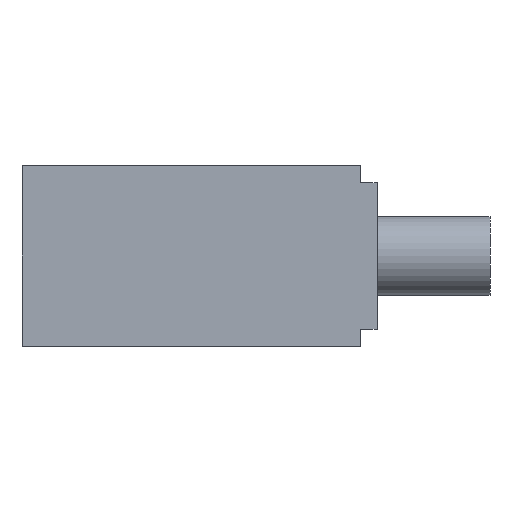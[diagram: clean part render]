
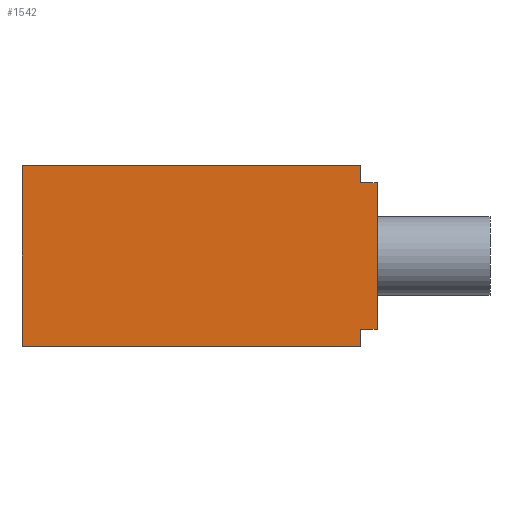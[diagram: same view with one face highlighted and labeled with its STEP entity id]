
A CAD part, front view. The second image highlights one B-rep face of the part: STEP entity #1542.
In plain terms, the highlighted planar face has unit normal (0, -1, 0) as drawn and (0, 0, -1) by its records, which use the part's own axes.
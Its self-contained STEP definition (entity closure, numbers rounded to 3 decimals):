
#48=LINE('',#2425,#150);
#52=LINE('',#2436,#154);
#60=LINE('',#2451,#162);
#92=LINE('',#2554,#194);
#108=LINE('',#2599,#210);
#124=LINE('',#2632,#226);
#127=LINE('',#2637,#229);
#128=LINE('',#2639,#230);
#150=VECTOR('',#1974,13.);
#154=VECTOR('',#1982,1.5);
#162=VECTOR('',#1990,1.5);
#194=VECTOR('',#2094,30.);
#210=VECTOR('',#2138,16.);
#226=VECTOR('',#2176,30.);
#229=VECTOR('',#2183,1.5);
#230=VECTOR('',#2186,1.5);
#340=PLANE('',#1724);
#484=FACE_OUTER_BOUND('',#614,.T.);
#614=EDGE_LOOP('',(#1408,#1409,#1410,#1411,#1412,#1413,#1414,#1415));
#769=VERTEX_POINT('',#2422);
#770=VERTEX_POINT('',#2424);
#772=VERTEX_POINT('',#2429);
#774=VERTEX_POINT('',#2433);
#775=VERTEX_POINT('',#2435);
#782=VERTEX_POINT('',#2449);
#817=VERTEX_POINT('',#2552);
#832=VERTEX_POINT('',#2597);
#927=EDGE_CURVE('',#770,#769,#48,.T.);
#932=EDGE_CURVE('',#775,#774,#52,.T.);
#940=EDGE_CURVE('',#772,#782,#60,.T.);
#989=EDGE_CURVE('',#782,#817,#92,.T.);
#1011=EDGE_CURVE('',#832,#817,#108,.T.);
#1028=EDGE_CURVE('',#832,#775,#124,.T.);
#1031=EDGE_CURVE('',#774,#770,#127,.T.);
#1032=EDGE_CURVE('',#772,#769,#128,.T.);
#1408=ORIENTED_EDGE('',*,*,#927,.T.);
#1409=ORIENTED_EDGE('',*,*,#1032,.F.);
#1410=ORIENTED_EDGE('',*,*,#940,.T.);
#1411=ORIENTED_EDGE('',*,*,#989,.T.);
#1412=ORIENTED_EDGE('',*,*,#1011,.F.);
#1413=ORIENTED_EDGE('',*,*,#1028,.T.);
#1414=ORIENTED_EDGE('',*,*,#932,.T.);
#1415=ORIENTED_EDGE('',*,*,#1031,.T.);
#1542=ADVANCED_FACE('',(#484),#340,.T.);
#1724=AXIS2_PLACEMENT_3D('',#2638,#2184,#2185);
#1974=DIRECTION('',(0.,-1.,0.));
#1982=DIRECTION('',(0.,-1.,0.));
#1990=DIRECTION('',(0.,-1.,0.));
#2094=DIRECTION('',(-1.,0.,0.));
#2138=DIRECTION('',(0.,-1.,0.));
#2176=DIRECTION('',(1.,0.,0.));
#2183=DIRECTION('',(1.,0.,0.));
#2184=DIRECTION('center_axis',(0.,0.,-1.));
#2185=DIRECTION('ref_axis',(-1.,0.,0.));
#2186=DIRECTION('',(1.,0.,0.));
#2422=CARTESIAN_POINT('',(16.5,-14.5,-40.));
#2424=CARTESIAN_POINT('',(16.5,-1.5,-40.));
#2425=CARTESIAN_POINT('',(16.5,-1.5,-40.));
#2429=CARTESIAN_POINT('',(15.,-14.5,-40.));
#2433=CARTESIAN_POINT('',(15.,-1.5,-40.));
#2435=CARTESIAN_POINT('',(15.,0.,-40.));
#2436=CARTESIAN_POINT('',(15.,0.,-40.));
#2449=CARTESIAN_POINT('',(15.,-16.,-40.));
#2451=CARTESIAN_POINT('',(15.,-14.5,-40.));
#2552=CARTESIAN_POINT('',(-15.,-16.,-40.));
#2554=CARTESIAN_POINT('',(15.,-16.,-40.));
#2597=CARTESIAN_POINT('',(-15.,0.,-40.));
#2599=CARTESIAN_POINT('',(-15.,0.,-40.));
#2632=CARTESIAN_POINT('',(-15.,0.,-40.));
#2637=CARTESIAN_POINT('',(15.,-1.5,-40.));
#2638=CARTESIAN_POINT('Origin',(15.,-1.5,-40.));
#2639=CARTESIAN_POINT('',(15.,-14.5,-40.));
